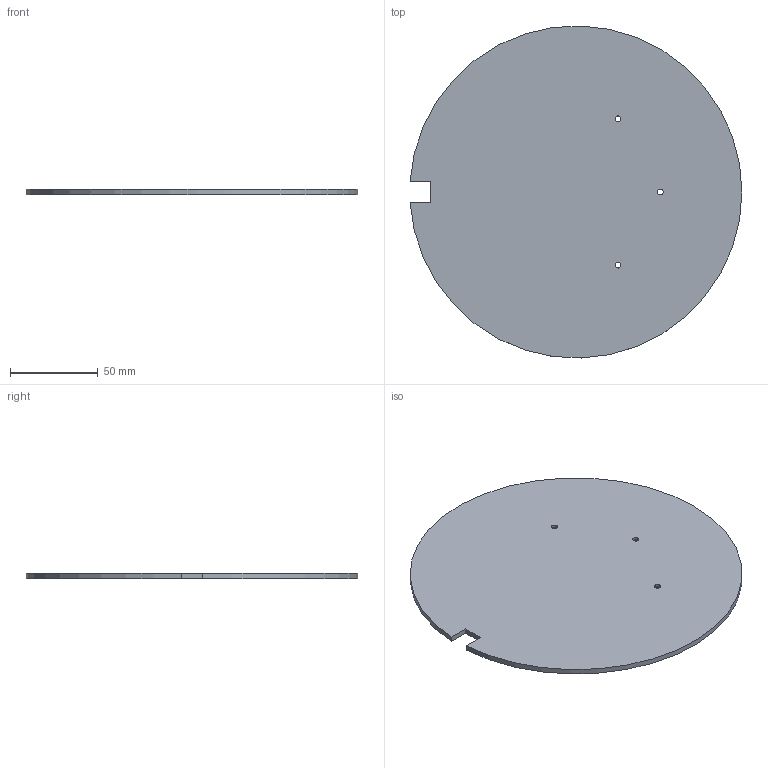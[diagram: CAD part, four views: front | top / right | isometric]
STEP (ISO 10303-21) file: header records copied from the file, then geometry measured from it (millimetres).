
FILE_DESCRIPTION(('Open CASCADE Model'),'2;1');
FILE_NAME('Open CASCADE Shape Model','2026-10-15T23:05:03',('Author'),( 'Open CASCADE'),'Open CASCADE STEP processor 7.9','Open CASCADE 7.9' ,'Unknown');
FILE_SCHEMA(('AUTOMOTIVE_DESIGN { 1 0 10303 214 1 1 1 1 }'));
Length unit declared in the file: millimetre
Products named in the file (1): Open CASCADE STEP translator 7.9 2
Bounding box: 188.81 x 188.9 x 3 mm (x, y, z)
Volume: 83218 mm3; surface area: 57900.8 mm2
Topology: 1 solids, 1 shells, 24 faces, 45 edges, 30 vertices
Faces by surface type: cylinder 12, plane 12
Full cylindrical faces by diameter (mm): 3.4 x3, 6.4 x3, 10.4 x4
Entity records: 1225 total; most frequent: CARTESIAN_POINT 212, DIRECTION 202, ORIENTED_EDGE 90, PCURVE 90, DEFINITIONAL_REPRESENTATION 90, LINE 83, VECTOR 83, AXIS2_PLACEMENT_3D 49
